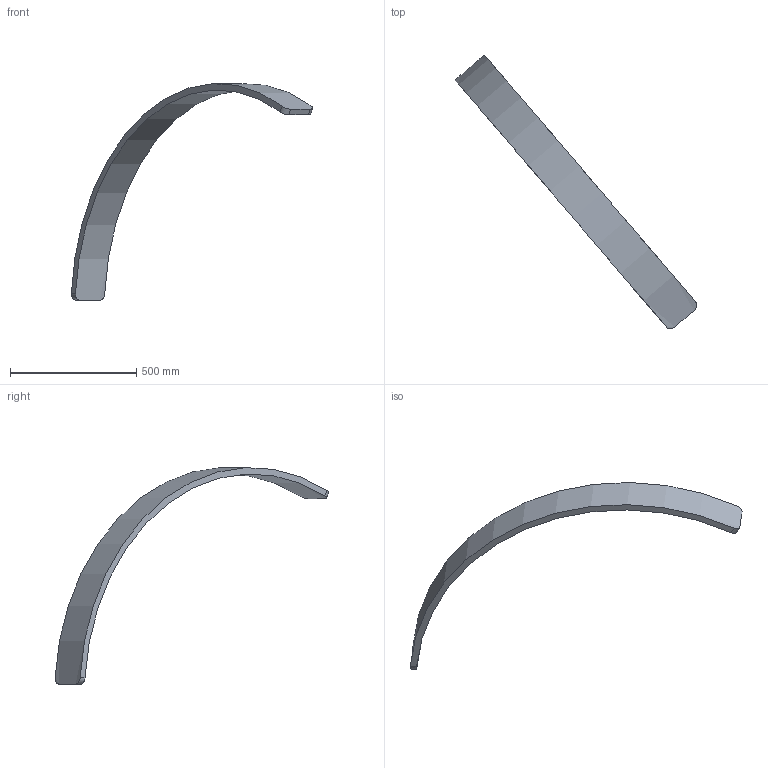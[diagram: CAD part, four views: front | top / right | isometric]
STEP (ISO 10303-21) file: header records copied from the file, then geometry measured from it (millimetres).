
FILE_DESCRIPTION (( 'STEP AP214' ), '1' );
FILE_NAME ('Section 9 AR.STEP', '2025-01-09T19:43:29', ( '' ), ( '' ), 'SwSTEP 2.0', 'SolidWorks 2024', '' );
FILE_SCHEMA (( 'AUTOMOTIVE_DESIGN' ));
Length unit declared in the file: inch
Products named in the file (1): Section 9 AR
Bounding box: 955.37 x 1083.43 x 857.56 mm (x, y, z)
Volume: 6849695.1 mm3; surface area: 636055.6 mm2
Topology: 1 solids, 1 shells, 10 faces, 24 edges, 16 vertices
Faces by surface type: cylinder 6, plane 4
Entity records: 543 total; most frequent: CARTESIAN_POINT 291, ORIENTED_EDGE 48, DIRECTION 42, EDGE_CURVE 24, VERTEX_POINT 16, AXIS2_PLACEMENT_3D 15, VECTOR 12, LINE 12
